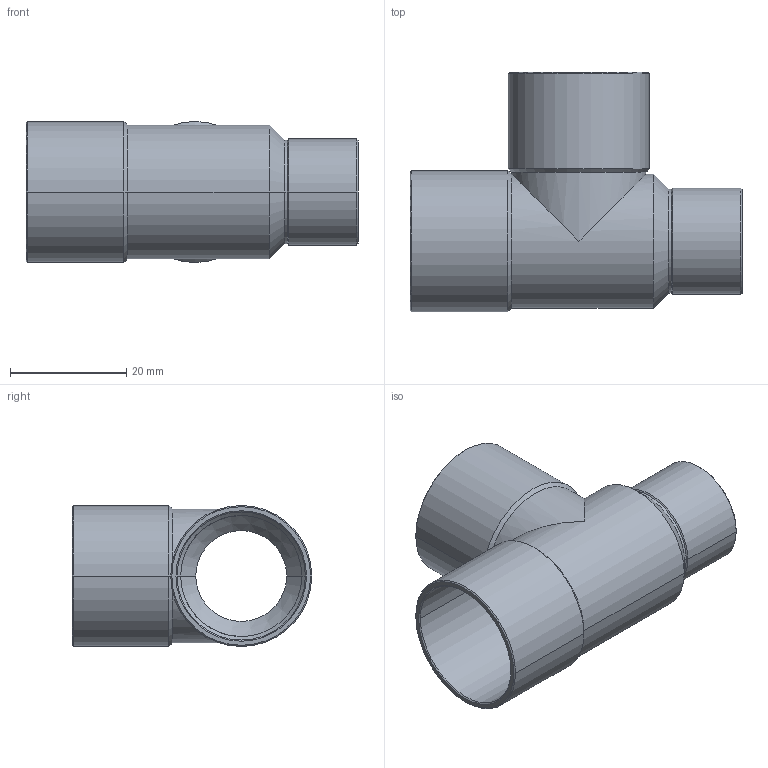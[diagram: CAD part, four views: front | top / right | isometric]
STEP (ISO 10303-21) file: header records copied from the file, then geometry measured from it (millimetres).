
FILE_DESCRIPTION((''),'2;1');
FILE_NAME('P:\Bouwmaten\z-maattekeningen 3D\5000\5130\5130222216.stp','2005-10-26T11:53:52',('Kris'),(''),'Autodesk Inventor 8','Autodesk Inventor 8','');
FILE_SCHEMA(('AUTOMOTIVE_DESIGN { 1 0 10303 214 1 1 1 1 }'));
Length unit declared in the file: millimetre
Products named in the file (1): 5130222216
Bounding box: 57 x 41.1 x 24.2 mm (x, y, z)
Volume: 5393.4 mm3; surface area: 10118.8 mm2
Topology: 1 solids, 1 shells, 55 faces, 118 edges, 64 vertices
Faces by surface type: cone 28, cylinder 24, plane 3
Entity records: 1495 total; most frequent: DIRECTION 294, CARTESIAN_POINT 238, ORIENTED_EDGE 236, AXIS2_PLACEMENT_3D 120, EDGE_CURVE 118, VERTEX_POINT 64, EDGE_LOOP 58, CIRCLE 56
